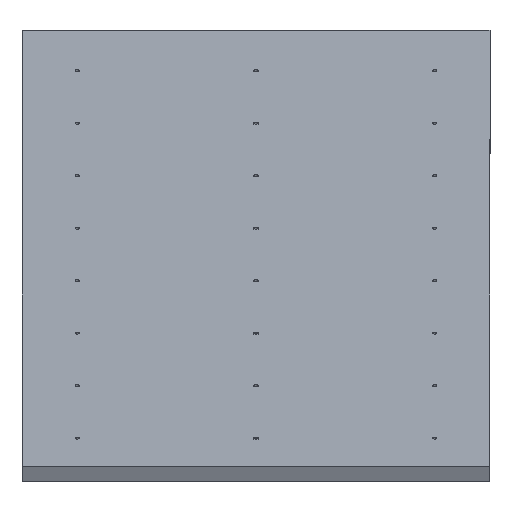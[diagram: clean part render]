
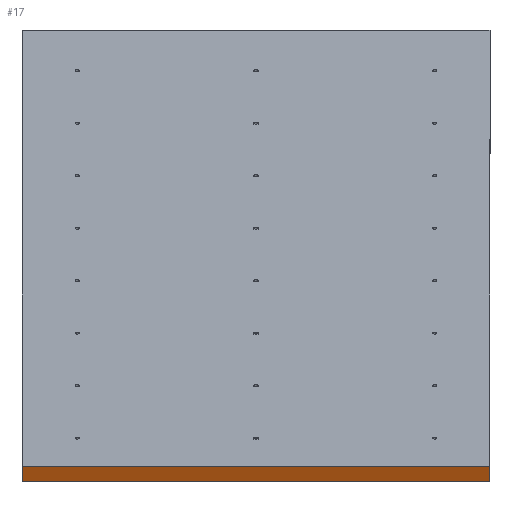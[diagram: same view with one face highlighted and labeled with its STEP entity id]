
A CAD part, left-side view. The second image highlights one B-rep face of the part: STEP entity #17.
In plain terms, the highlighted planar face has unit normal (-0.902, 0, -0.431).
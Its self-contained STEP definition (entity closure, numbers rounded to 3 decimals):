
#17 = ADVANCED_FACE('',(#18),#32,.T.);
#18 = FACE_BOUND('',#19,.T.);
#19 = EDGE_LOOP('',(#20,#55,#83,#111));
#20 = ORIENTED_EDGE('',*,*,#21,.T.);
#21 = EDGE_CURVE('',#22,#24,#26,.T.);
#22 = VERTEX_POINT('',#23);
#23 = CARTESIAN_POINT('',(0.,0.,34.24));
#24 = VERTEX_POINT('',#25);
#25 = CARTESIAN_POINT('',(0.,500.,34.24));
#26 = SURFACE_CURVE('',#27,(#31,#43),.PCURVE_S1.);
#27 = LINE('',#28,#29);
#28 = CARTESIAN_POINT('',(0.,0.,34.24));
#29 = VECTOR('',#30,1.);
#30 = DIRECTION('',(0.,1.,0.));
#31 = PCURVE('',#32,#37);
#32 = PLANE('',#33);
#33 = AXIS2_PLACEMENT_3D('',#34,#35,#36);
#34 = CARTESIAN_POINT('',(0.,0.,34.24));
#35 = DIRECTION('',(-0.902,0.,-0.431));
#36 = DIRECTION('',(0.431,0.,-0.902));
#37 = DEFINITIONAL_REPRESENTATION('',(#38),#42);
#38 = LINE('',#39,#40);
#39 = CARTESIAN_POINT('',(0.,0.));
#40 = VECTOR('',#41,1.);
#41 = DIRECTION('',(0.,-1.));
#42 = ( GEOMETRIC_REPRESENTATION_CONTEXT(2) 
PARAMETRIC_REPRESENTATION_CONTEXT() REPRESENTATION_CONTEXT('2D SPACE',''
  ) );
#43 = PCURVE('',#44,#49);
#44 = PLANE('',#45);
#45 = AXIS2_PLACEMENT_3D('',#46,#47,#48);
#46 = CARTESIAN_POINT('',(974.236,0.,500.));
#47 = DIRECTION('',(-0.431,0.,0.902));
#48 = DIRECTION('',(-0.902,0.,-0.431));
#49 = DEFINITIONAL_REPRESENTATION('',(#50),#54);
#50 = LINE('',#51,#52);
#51 = CARTESIAN_POINT('',(1079.847,0.));
#52 = VECTOR('',#53,1.);
#53 = DIRECTION('',(0.,-1.));
#54 = ( GEOMETRIC_REPRESENTATION_CONTEXT(2) 
PARAMETRIC_REPRESENTATION_CONTEXT() REPRESENTATION_CONTEXT('2D SPACE',''
  ) );
#55 = ORIENTED_EDGE('',*,*,#56,.T.);
#56 = EDGE_CURVE('',#24,#57,#59,.T.);
#57 = VERTEX_POINT('',#58);
#58 = CARTESIAN_POINT('',(7.764,500.,18.));
#59 = SURFACE_CURVE('',#60,(#64,#71),.PCURVE_S1.);
#60 = LINE('',#61,#62);
#61 = CARTESIAN_POINT('',(0.,500.,34.24));
#62 = VECTOR('',#63,1.);
#63 = DIRECTION('',(0.431,0.,-0.902));
#64 = PCURVE('',#32,#65);
#65 = DEFINITIONAL_REPRESENTATION('',(#66),#70);
#66 = LINE('',#67,#68);
#67 = CARTESIAN_POINT('',(0.,-500.));
#68 = VECTOR('',#69,1.);
#69 = DIRECTION('',(1.,0.));
#70 = ( GEOMETRIC_REPRESENTATION_CONTEXT(2) 
PARAMETRIC_REPRESENTATION_CONTEXT() REPRESENTATION_CONTEXT('2D SPACE',''
  ) );
#71 = PCURVE('',#72,#77);
#72 = PLANE('',#73);
#73 = AXIS2_PLACEMENT_3D('',#74,#75,#76);
#74 = CARTESIAN_POINT('',(491.,500.,259.));
#75 = DIRECTION('',(-0.,-1.,-0.));
#76 = DIRECTION('',(0.,0.,-1.));
#77 = DEFINITIONAL_REPRESENTATION('',(#78),#82);
#78 = LINE('',#79,#80);
#79 = CARTESIAN_POINT('',(224.76,-491.));
#80 = VECTOR('',#81,1.);
#81 = DIRECTION('',(0.902,0.431));
#82 = ( GEOMETRIC_REPRESENTATION_CONTEXT(2) 
PARAMETRIC_REPRESENTATION_CONTEXT() REPRESENTATION_CONTEXT('2D SPACE',''
  ) );
#83 = ORIENTED_EDGE('',*,*,#84,.F.);
#84 = EDGE_CURVE('',#85,#57,#87,.T.);
#85 = VERTEX_POINT('',#86);
#86 = CARTESIAN_POINT('',(7.764,0.,18.));
#87 = SURFACE_CURVE('',#88,(#92,#99),.PCURVE_S1.);
#88 = LINE('',#89,#90);
#89 = CARTESIAN_POINT('',(7.764,0.,18.));
#90 = VECTOR('',#91,1.);
#91 = DIRECTION('',(0.,1.,0.));
#92 = PCURVE('',#32,#93);
#93 = DEFINITIONAL_REPRESENTATION('',(#94),#98);
#94 = LINE('',#95,#96);
#95 = CARTESIAN_POINT('',(18.,0.));
#96 = VECTOR('',#97,1.);
#97 = DIRECTION('',(0.,-1.));
#98 = ( GEOMETRIC_REPRESENTATION_CONTEXT(2) 
PARAMETRIC_REPRESENTATION_CONTEXT() REPRESENTATION_CONTEXT('2D SPACE',''
  ) );
#99 = PCURVE('',#100,#105);
#100 = PLANE('',#101);
#101 = AXIS2_PLACEMENT_3D('',#102,#103,#104);
#102 = CARTESIAN_POINT('',(7.764,0.,18.));
#103 = DIRECTION('',(0.431,0.,-0.902));
#104 = DIRECTION('',(0.902,0.,0.431));
#105 = DEFINITIONAL_REPRESENTATION('',(#106),#110);
#106 = LINE('',#107,#108);
#107 = CARTESIAN_POINT('',(0.,0.));
#108 = VECTOR('',#109,1.);
#109 = DIRECTION('',(0.,-1.));
#110 = ( GEOMETRIC_REPRESENTATION_CONTEXT(2) 
PARAMETRIC_REPRESENTATION_CONTEXT() REPRESENTATION_CONTEXT('2D SPACE',''
  ) );
#111 = ORIENTED_EDGE('',*,*,#112,.F.);
#112 = EDGE_CURVE('',#22,#85,#113,.T.);
#113 = SURFACE_CURVE('',#114,(#118,#125),.PCURVE_S1.);
#114 = LINE('',#115,#116);
#115 = CARTESIAN_POINT('',(0.,0.,34.24));
#116 = VECTOR('',#117,1.);
#117 = DIRECTION('',(0.431,0.,-0.902));
#118 = PCURVE('',#32,#119);
#119 = DEFINITIONAL_REPRESENTATION('',(#120),#124);
#120 = LINE('',#121,#122);
#121 = CARTESIAN_POINT('',(0.,0.));
#122 = VECTOR('',#123,1.);
#123 = DIRECTION('',(1.,0.));
#124 = ( GEOMETRIC_REPRESENTATION_CONTEXT(2) 
PARAMETRIC_REPRESENTATION_CONTEXT() REPRESENTATION_CONTEXT('2D SPACE',''
  ) );
#125 = PCURVE('',#126,#131);
#126 = PLANE('',#127);
#127 = AXIS2_PLACEMENT_3D('',#128,#129,#130);
#128 = CARTESIAN_POINT('',(491.,0.,259.));
#129 = DIRECTION('',(-0.,-1.,-0.));
#130 = DIRECTION('',(0.,0.,-1.));
#131 = DEFINITIONAL_REPRESENTATION('',(#132),#136);
#132 = LINE('',#133,#134);
#133 = CARTESIAN_POINT('',(224.76,-491.));
#134 = VECTOR('',#135,1.);
#135 = DIRECTION('',(0.902,0.431));
#136 = ( GEOMETRIC_REPRESENTATION_CONTEXT(2) 
PARAMETRIC_REPRESENTATION_CONTEXT() REPRESENTATION_CONTEXT('2D SPACE',''
  ) );
